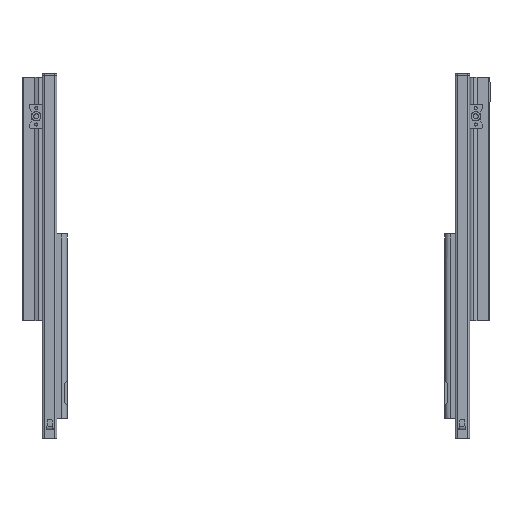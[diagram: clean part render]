
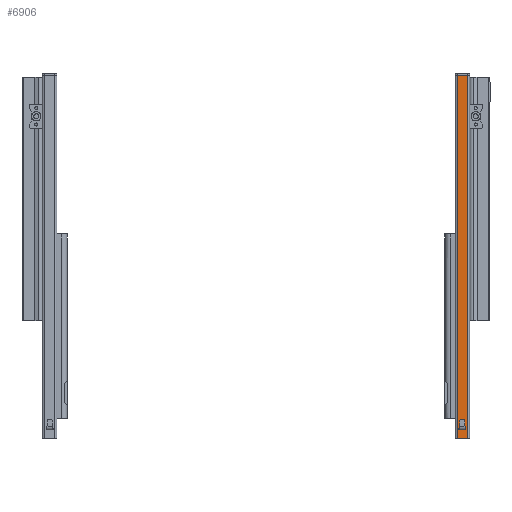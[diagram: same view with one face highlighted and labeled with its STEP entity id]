
A CAD part, front view. The second image highlights one B-rep face of the part: STEP entity #6906.
In plain terms, the highlighted planar face has unit normal (0, -1, 0).
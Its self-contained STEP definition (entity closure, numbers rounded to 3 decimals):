
#126=FACE_BOUND('',#950,.T.);
#516=FACE_OUTER_BOUND('',#949,.T.);
#949=EDGE_LOOP('',(#5133,#5134,#5135,#5136));
#950=EDGE_LOOP('',(#5137,#5138,#5139,#5140));
#1444=LINE('',#10423,#2074);
#1447=LINE('',#10429,#2077);
#1450=LINE('',#10461,#2080);
#1453=LINE('',#10468,#2083);
#1510=LINE('',#10655,#2140);
#1511=LINE('',#10659,#2141);
#1512=LINE('',#10661,#2142);
#1513=LINE('',#10662,#2143);
#2074=VECTOR('',#8436,10.);
#2077=VECTOR('',#8441,10.);
#2080=VECTOR('',#8446,10.);
#2083=VECTOR('',#8457,10.);
#2140=VECTOR('',#8648,10.);
#2141=VECTOR('',#8653,10.);
#2142=VECTOR('',#8654,10.);
#2143=VECTOR('',#8655,10.);
#2990=VERTEX_POINT('',#10420);
#2991=VERTEX_POINT('',#10422);
#2993=VERTEX_POINT('',#10428);
#2994=VERTEX_POINT('',#10460);
#3056=VERTEX_POINT('',#10652);
#3057=VERTEX_POINT('',#10654);
#3058=VERTEX_POINT('',#10658);
#3059=VERTEX_POINT('',#10660);
#3721=EDGE_CURVE('',#2990,#2991,#1444,.T.);
#3724=EDGE_CURVE('',#2991,#2993,#1447,.T.);
#3728=EDGE_CURVE('',#2993,#2994,#1450,.T.);
#3731=EDGE_CURVE('',#2994,#2990,#1453,.T.);
#3820=EDGE_CURVE('',#3056,#3057,#1510,.T.);
#3822=EDGE_CURVE('',#3056,#3058,#1511,.T.);
#3823=EDGE_CURVE('',#3058,#3059,#1512,.T.);
#3824=EDGE_CURVE('',#3059,#3057,#1513,.T.);
#5133=ORIENTED_EDGE('',*,*,#3822,.T.);
#5134=ORIENTED_EDGE('',*,*,#3823,.T.);
#5135=ORIENTED_EDGE('',*,*,#3824,.T.);
#5136=ORIENTED_EDGE('',*,*,#3820,.F.);
#5137=ORIENTED_EDGE('',*,*,#3721,.F.);
#5138=ORIENTED_EDGE('',*,*,#3731,.F.);
#5139=ORIENTED_EDGE('',*,*,#3728,.F.);
#5140=ORIENTED_EDGE('',*,*,#3724,.F.);
#6267=PLANE('',#7435);
#6906=ADVANCED_FACE('',(#516,#126),#6267,.F.);
#7435=AXIS2_PLACEMENT_3D('',#10657,#8651,#8652);
#8436=DIRECTION('',(0.,0.,-1.));
#8441=DIRECTION('',(1.,0.,0.));
#8446=DIRECTION('',(0.,0.,1.));
#8457=DIRECTION('',(-1.,0.,0.));
#8648=DIRECTION('',(0.,0.,-1.));
#8651=DIRECTION('center_axis',(0.,1.,0.));
#8652=DIRECTION('ref_axis',(1.,0.,0.));
#8653=DIRECTION('',(-1.,0.,0.));
#8654=DIRECTION('',(0.,0.,-1.));
#8655=DIRECTION('',(1.,0.,0.));
#10420=CARTESIAN_POINT('',(38.034,8.,-237.097));
#10422=CARTESIAN_POINT('',(38.034,8.,-238.597));
#10423=CARTESIAN_POINT('',(38.034,8.,-64.597));
#10428=CARTESIAN_POINT('',(44.652,8.,-238.597));
#10429=CARTESIAN_POINT('',(38.843,8.,-238.597));
#10460=CARTESIAN_POINT('',(44.652,8.,-237.097));
#10461=CARTESIAN_POINT('',(44.652,8.,-64.597));
#10468=CARTESIAN_POINT('',(38.843,8.,-237.097));
#10652=CARTESIAN_POINT('',(46.343,8.,107.903));
#10654=CARTESIAN_POINT('',(46.343,8.,-247.097));
#10655=CARTESIAN_POINT('',(46.343,8.,107.903));
#10657=CARTESIAN_POINT('Origin',(36.343,8.,107.903));
#10658=CARTESIAN_POINT('',(36.343,8.,107.903));
#10659=CARTESIAN_POINT('',(46.343,8.,107.903));
#10660=CARTESIAN_POINT('',(36.343,8.,-247.097));
#10661=CARTESIAN_POINT('',(36.343,8.,107.903));
#10662=CARTESIAN_POINT('',(46.343,8.,-247.097));
